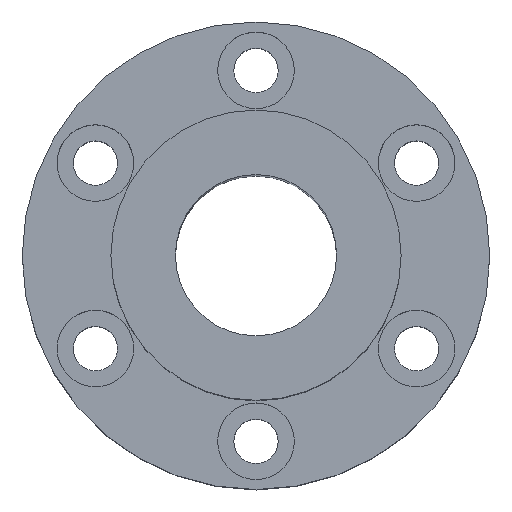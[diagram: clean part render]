
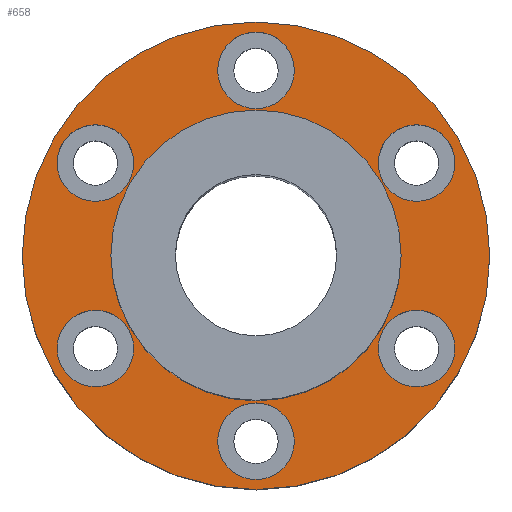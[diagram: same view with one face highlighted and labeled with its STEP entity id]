
A CAD part, top view. The second image highlights one B-rep face of the part: STEP entity #658.
In plain terms, the highlighted planar face has unit normal (0, 0, 1).
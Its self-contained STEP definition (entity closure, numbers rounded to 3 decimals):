
#1=CARTESIAN_POINT('',(0.,0.,14.5));
#2=DIRECTION('',(0.,0.,1.));
#3=DIRECTION('',(1.,0.,0.));
#4=AXIS2_PLACEMENT_3D('',#1,#2,#3);
#6=CARTESIAN_POINT('',(0.,0.,14.5));
#7=DIRECTION('',(0.,0.,1.));
#8=DIRECTION('',(-1.,0.,0.));
#9=AXIS2_PLACEMENT_3D('',#6,#7,#8);
#11=CARTESIAN_POINT('',(19.919,-11.5,14.5));
#12=DIRECTION('',(0.,0.,-1.));
#13=DIRECTION('',(-0.5,-0.866,0.));
#14=AXIS2_PLACEMENT_3D('',#11,#12,#13);
#16=CARTESIAN_POINT('',(19.919,-11.5,14.5));
#17=DIRECTION('',(0.,0.,-1.));
#18=DIRECTION('',(0.5,0.866,0.));
#19=AXIS2_PLACEMENT_3D('',#16,#17,#18);
#21=CARTESIAN_POINT('',(-19.919,-11.5,14.5));
#22=DIRECTION('',(0.,0.,-1.));
#23=DIRECTION('',(-0.5,0.866,0.));
#24=AXIS2_PLACEMENT_3D('',#21,#22,#23);
#26=CARTESIAN_POINT('',(-19.919,-11.5,14.5));
#27=DIRECTION('',(0.,0.,-1.));
#28=DIRECTION('',(0.5,-0.866,0.));
#29=AXIS2_PLACEMENT_3D('',#26,#27,#28);
#31=CARTESIAN_POINT('',(0.,23.,14.5));
#32=DIRECTION('',(0.,0.,-1.));
#33=DIRECTION('',(1.,0.,0.));
#34=AXIS2_PLACEMENT_3D('',#31,#32,#33);
#36=CARTESIAN_POINT('',(0.,23.,14.5));
#37=DIRECTION('',(0.,0.,-1.));
#38=DIRECTION('',(-1.,0.,0.));
#39=AXIS2_PLACEMENT_3D('',#36,#37,#38);
#41=CARTESIAN_POINT('',(0.,0.,14.5));
#42=DIRECTION('',(0.,0.,-1.));
#43=DIRECTION('',(1.,0.,0.));
#44=AXIS2_PLACEMENT_3D('',#41,#42,#43);
#46=CARTESIAN_POINT('',(0.,0.,14.5));
#47=DIRECTION('',(0.,0.,-1.));
#48=DIRECTION('',(-1.,0.,0.));
#49=AXIS2_PLACEMENT_3D('',#46,#47,#48);
#51=CARTESIAN_POINT('',(-19.919,11.5,14.5));
#52=DIRECTION('',(0.,0.,-1.));
#53=DIRECTION('',(0.5,0.866,0.));
#54=AXIS2_PLACEMENT_3D('',#51,#52,#53);
#56=CARTESIAN_POINT('',(-19.919,11.5,14.5));
#57=DIRECTION('',(0.,0.,-1.));
#58=DIRECTION('',(-0.5,-0.866,0.));
#59=AXIS2_PLACEMENT_3D('',#56,#57,#58);
#61=CARTESIAN_POINT('',(0.,-23.,14.5));
#62=DIRECTION('',(0.,0.,-1.));
#63=DIRECTION('',(-1.,0.,0.));
#64=AXIS2_PLACEMENT_3D('',#61,#62,#63);
#66=CARTESIAN_POINT('',(0.,-23.,14.5));
#67=DIRECTION('',(0.,0.,-1.));
#68=DIRECTION('',(1.,0.,0.));
#69=AXIS2_PLACEMENT_3D('',#66,#67,#68);
#71=CARTESIAN_POINT('',(19.919,11.5,14.5));
#72=DIRECTION('',(0.,0.,-1.));
#73=DIRECTION('',(0.5,-0.866,0.));
#74=AXIS2_PLACEMENT_3D('',#71,#72,#73);
#76=CARTESIAN_POINT('',(19.919,11.5,14.5));
#77=DIRECTION('',(0.,0.,-1.));
#78=DIRECTION('',(-0.5,0.866,0.));
#79=AXIS2_PLACEMENT_3D('',#76,#77,#78);
#533=CARTESIAN_POINT('',(-29.,0.,14.5));
#535=VERTEX_POINT('',#533);
#537=CARTESIAN_POINT('',(29.,0.,14.5));
#539=VERTEX_POINT('',#537);
#541=CARTESIAN_POINT('',(4.75,23.,14.5));
#543=VERTEX_POINT('',#541);
#545=CARTESIAN_POINT('',(-4.75,23.,14.5));
#547=VERTEX_POINT('',#545);
#549=CARTESIAN_POINT('',(-17.544,15.614,14.5));
#551=VERTEX_POINT('',#549);
#553=CARTESIAN_POINT('',(-22.294,7.386,14.5));
#555=VERTEX_POINT('',#553);
#557=CARTESIAN_POINT('',(-22.294,-7.386,14.5));
#559=VERTEX_POINT('',#557);
#561=CARTESIAN_POINT('',(-17.544,-15.614,14.5));
#563=VERTEX_POINT('',#561);
#565=CARTESIAN_POINT('',(-4.75,-23.,14.5));
#567=VERTEX_POINT('',#565);
#569=CARTESIAN_POINT('',(4.75,-23.,14.5));
#571=VERTEX_POINT('',#569);
#573=CARTESIAN_POINT('',(17.544,-15.614,14.5));
#575=VERTEX_POINT('',#573);
#577=CARTESIAN_POINT('',(22.294,-7.386,14.5));
#579=VERTEX_POINT('',#577);
#581=CARTESIAN_POINT('',(22.294,7.386,14.5));
#583=VERTEX_POINT('',#581);
#585=CARTESIAN_POINT('',(17.544,15.614,14.5));
#587=VERTEX_POINT('',#585);
#598=CARTESIAN_POINT('',(18.,0.,14.5));
#600=VERTEX_POINT('',#598);
#602=CARTESIAN_POINT('',(-18.,0.,14.5));
#604=VERTEX_POINT('',#602);
#605=CARTESIAN_POINT('',(0.,0.,14.5));
#606=DIRECTION('',(0.,0.,1.));
#607=DIRECTION('',(1.,0.,0.));
#608=AXIS2_PLACEMENT_3D('',#605,#606,#607);
#609=PLANE('',#608);
#611=ORIENTED_EDGE('',*,*,#610,.F.);
#613=ORIENTED_EDGE('',*,*,#612,.F.);
#614=EDGE_LOOP('',(#611,#613));
#615=FACE_OUTER_BOUND('',#614,.F.);
#617=ORIENTED_EDGE('',*,*,#616,.F.);
#619=ORIENTED_EDGE('',*,*,#618,.F.);
#620=EDGE_LOOP('',(#617,#619));
#621=FACE_BOUND('',#620,.F.);
#623=ORIENTED_EDGE('',*,*,#622,.F.);
#625=ORIENTED_EDGE('',*,*,#624,.F.);
#626=EDGE_LOOP('',(#623,#625));
#627=FACE_BOUND('',#626,.F.);
#629=ORIENTED_EDGE('',*,*,#628,.F.);
#631=ORIENTED_EDGE('',*,*,#630,.F.);
#632=EDGE_LOOP('',(#629,#631));
#633=FACE_BOUND('',#632,.F.);
#635=ORIENTED_EDGE('',*,*,#634,.F.);
#637=ORIENTED_EDGE('',*,*,#636,.F.);
#638=EDGE_LOOP('',(#635,#637));
#639=FACE_BOUND('',#638,.F.);
#641=ORIENTED_EDGE('',*,*,#640,.F.);
#643=ORIENTED_EDGE('',*,*,#642,.F.);
#644=EDGE_LOOP('',(#641,#643));
#645=FACE_BOUND('',#644,.F.);
#647=ORIENTED_EDGE('',*,*,#646,.F.);
#649=ORIENTED_EDGE('',*,*,#648,.F.);
#650=EDGE_LOOP('',(#647,#649));
#651=FACE_BOUND('',#650,.F.);
#653=ORIENTED_EDGE('',*,*,#652,.F.);
#655=ORIENTED_EDGE('',*,*,#654,.F.);
#656=EDGE_LOOP('',(#653,#655));
#657=FACE_BOUND('',#656,.F.);
#658=ADVANCED_FACE('',(#615,#621,#627,#633,#639,#645,#651,#657),#609,.T.);
#5=CIRCLE('',#4,29.);
#10=CIRCLE('',#9,29.);
#15=CIRCLE('',#14,4.75);
#20=CIRCLE('',#19,4.75);
#25=CIRCLE('',#24,4.75);
#30=CIRCLE('',#29,4.75);
#35=CIRCLE('',#34,4.75);
#40=CIRCLE('',#39,4.75);
#45=CIRCLE('',#44,18.);
#50=CIRCLE('',#49,18.);
#55=CIRCLE('',#54,4.75);
#60=CIRCLE('',#59,4.75);
#65=CIRCLE('',#64,4.75);
#70=CIRCLE('',#69,4.75);
#75=CIRCLE('',#74,4.75);
#80=CIRCLE('',#79,4.75);
#610=EDGE_CURVE('',#539,#535,#5,.T.);
#612=EDGE_CURVE('',#535,#539,#10,.T.);
#616=EDGE_CURVE('',#575,#579,#15,.T.);
#618=EDGE_CURVE('',#579,#575,#20,.T.);
#622=EDGE_CURVE('',#559,#563,#25,.T.);
#624=EDGE_CURVE('',#563,#559,#30,.T.);
#628=EDGE_CURVE('',#543,#547,#35,.T.);
#630=EDGE_CURVE('',#547,#543,#40,.T.);
#634=EDGE_CURVE('',#600,#604,#45,.T.);
#636=EDGE_CURVE('',#604,#600,#50,.T.);
#640=EDGE_CURVE('',#551,#555,#55,.T.);
#642=EDGE_CURVE('',#555,#551,#60,.T.);
#646=EDGE_CURVE('',#567,#571,#65,.T.);
#648=EDGE_CURVE('',#571,#567,#70,.T.);
#652=EDGE_CURVE('',#583,#587,#75,.T.);
#654=EDGE_CURVE('',#587,#583,#80,.T.);
